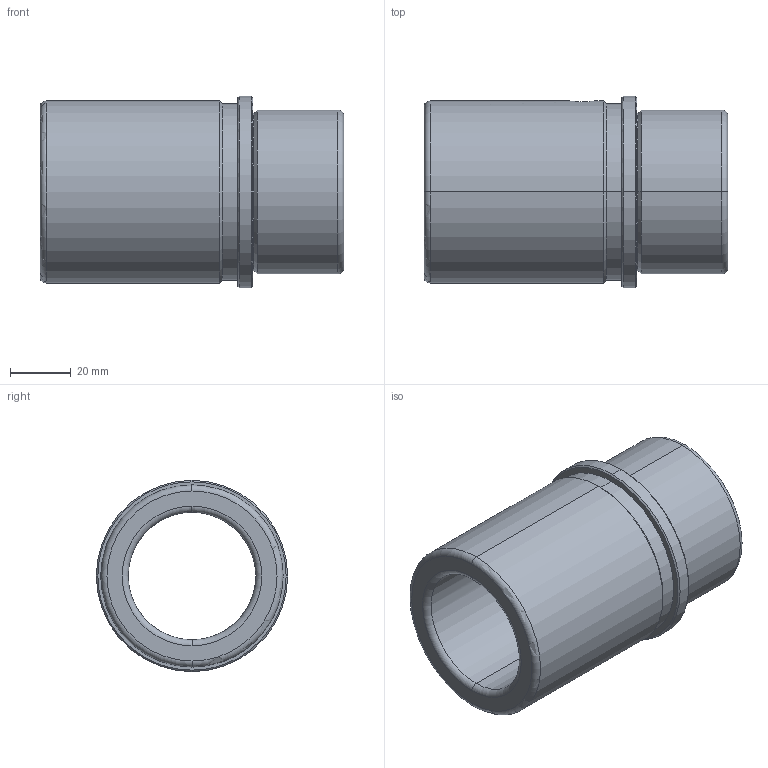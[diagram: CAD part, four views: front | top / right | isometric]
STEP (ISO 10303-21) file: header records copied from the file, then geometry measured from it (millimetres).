
FILE_DESCRIPTION(('CATIA V5 STEP Exchange'),'2;1');
FILE_NAME('C:\Users\Utente\Desktop\IO LAVORO\3D X SITO CF\X SITO\FAMO\FAMO-SF1-E42 x 100.stp','2021-01-06T17:01:12+00:00',('none'),('none'),'CATIA Version 5 Release 20 GA (IN-10)','CATIA V5 STEP AP203','none');
FILE_SCHEMA(('CONFIG_CONTROL_DESIGN'));
Length unit declared in the file: millimetre
Products named in the file (1): FAMO-SF1-E42 x 100
Bounding box: 100 x 63 x 63 mm (x, y, z)
Volume: 126953.8 mm3; surface area: 35160.1 mm2
Topology: 1 solids, 1 shells, 37 faces, 126 edges, 94 vertices
Faces by surface type: cylinder 14, cone 10, torus 8, plane 5
Entity records: 1640 total; most frequent: CARTESIAN_POINT 508, ORIENTED_EDGE 252, DIRECTION 180, EDGE_CURVE 126, AXIS2_PLACEMENT_3D 120, VERTEX_POINT 94, CIRCLE 82, EDGE_LOOP 44
